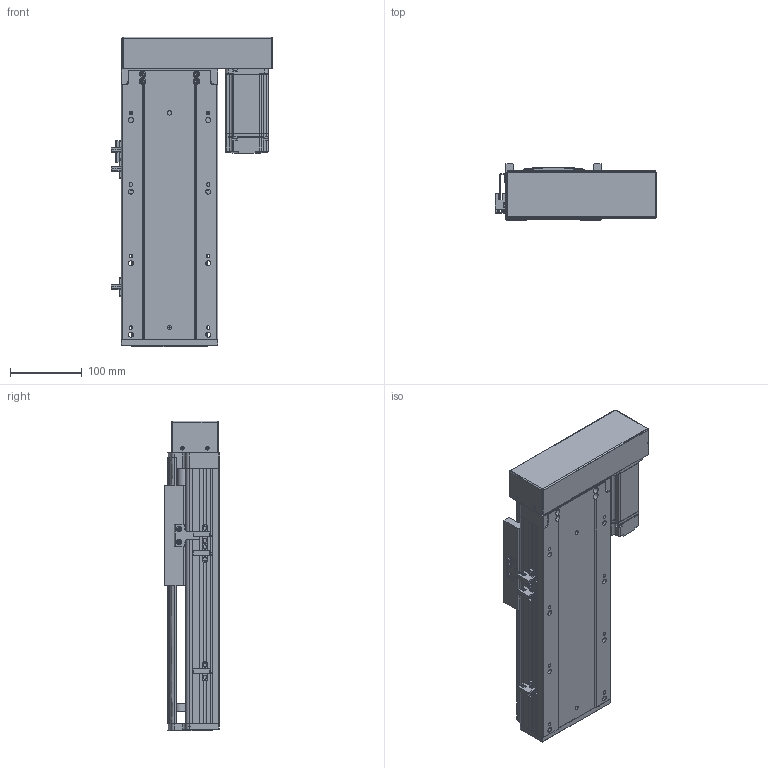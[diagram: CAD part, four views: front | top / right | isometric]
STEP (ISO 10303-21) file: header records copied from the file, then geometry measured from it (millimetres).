
FILE_DESCRIPTION (( 'STEP AP203' ), '1' );
FILE_NAME ('RY140-L1620-300-RK.SLDASM_150.step', '2021-02-22T02:54:05', ( '盈信电脑' ), ( '东莞市道滘镇水果街19号' ), 'SwSTEP 2.0', 'SolidWorks 2012', '' );
FILE_SCHEMA (( 'CONFIG_CONTROL_DESIGN' ));
Length unit declared in the file: millimetre
Products named in the file (14): RY140-L1620-300-RK.SLDASM_150; RY120外置感应片(140共用）; 覜茼ん672; 侂狟400W侜督萇儂; 15; RY140酘衵殏萇儂欶; 滅袉蝶18-10; 滅袉蝶18-24; RY140转折电机端支撑座; RY140蛌殏萇儂假蚾啣; RY140臏賑輸; RY140-300蛌殏倰第奻裔啣-RK_150; RY140綴裔啣; RY140-300蛌殏倰第菁釱-RK_150
Assembly tree (16 placements, depth 3):
  RY140-L1620-300-RK.SLDASM_150
    RY140-300蛌殏倰第菁釱-RK_150
    RY140臏賑輸
    RY140-300蛌殏倰第奻裔啣-RK_150
    RY140綴裔啣
    滅袉蝶18-24  x2
    滅袉蝶18-10
    RY140转折电机端支撑座
    RY140蛌殏萇儂假蚾啣
    侂狟400W侜督萇儂
      15
    RY140酘衵殏萇儂欶
    覜茼ん672  x3
    RY120外置感应片(140共用）
Bounding box: 225.2 x 78 x 433 mm (x, y, z)
Volume: 1971271 mm3; surface area: 661944.6 mm2
Topology: 15 solids, 15 shells, 2163 faces, 5948 edges, 3832 vertices
Faces by surface type: plane 1178, cylinder 738, cone 154, bspline 93
Entity records: 68307 total; most frequent: CARTESIAN_POINT 16607, ORIENTED_EDGE 10680, DIRECTION 10077, EDGE_CURVE 5340, LINE 3509, VECTOR 3509, VERTEX_POINT 3500, AXIS2_PLACEMENT_3D 3284
